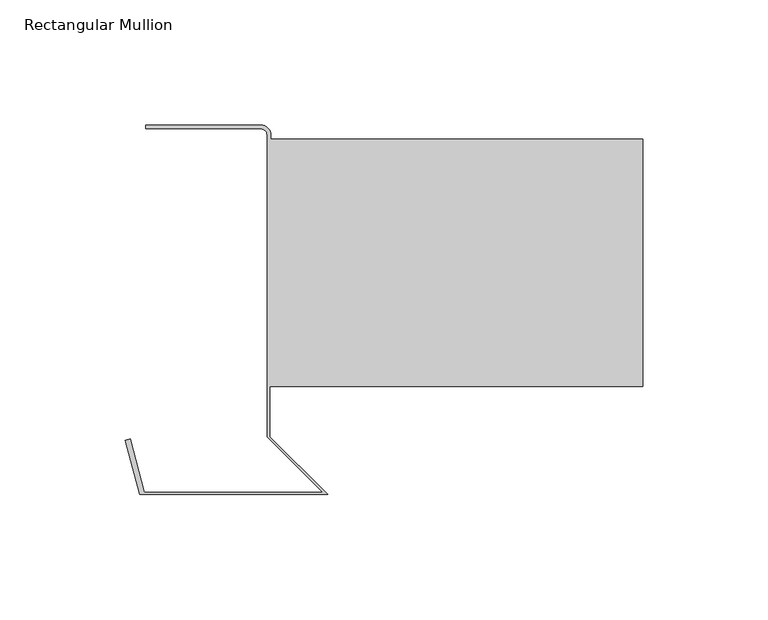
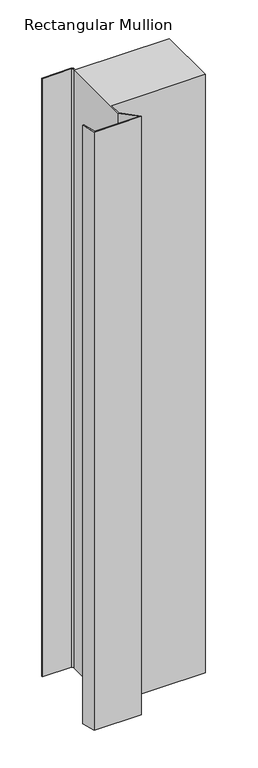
"""IFC4 building model written with IfcOpenShell, lengths in millimetres: member geometry, Rectangular Mullion : TI-V-02_01_Base detail i."""

from ifc_helpers import new_model, si_unit, point, frame, frame_2d, origin, place, context, project, spatial, polyline, circle_curve, trimmed, segment, composite_curve, outline, extrude, source, transform, mapped, element, save


def rectangular_mullion_f78c5b19(model_context):
    return source(origin(), model_context, "Body", "SweptSolid", [
        extrude(outline(composite_curve([segment(polyline([(-148.8686292, 20.0), (-148.8686292, 0.0), (-125.8686292, -23.0), (-200.8686292, -23.0), (-206.6383068, -1.4672699), (-204.7064551, -0.9496318), (-199.0124361, -22.2), (-127.8, -22.2), (-150.0, 0.0), (-150.0, 120.5)]), True, "CONTINUOUS"), segment(trimmed(circle_curve(frame_2d((-152.5, 120.5)), 2.5), [point((-150.0, 120.5))], [point((-152.5, 123.0))], True, "CARTESIAN"), True, "CONTINUOUS"), segment(polyline([(-152.5, 123.0), (-198.5, 123.0), (-198.5, 124.5), (-152.5, 124.5)]), True, "CONTINUOUS"), segment(trimmed(circle_curve(frame_2d((-152.5, 120.5)), 4.0), [point((-152.5, 124.5))], [point((-148.5, 120.5))], False, "CARTESIAN"), True, "CONTINUOUS"), segment(polyline([(-148.5, 120.5), (-148.5, 119.0), (0.0, 119.0), (0.0, 20.0), (-148.8686292, 20.0)]), True, "CONTINUOUS")], self_intersect=False)), frame((0.0, 0.0, -1000.0), z_axis=(0.0, 0.0, 1.0), x_axis=(1.0, 0.0, 0.0)), (0.0, 0.0, 1.0), 1000.0),
    ])


if __name__ == "__main__":
    model = new_model("IFC4")
    model_context = context("Model", 3, world=origin())
    ifc_project = project(units=[si_unit("LENGTHUNIT", "METRE", prefix="MILLI")], contexts=[model_context])
    site = spatial("IfcSite", under=ifc_project)
    building = spatial("IfcBuilding", under=site)
    placement = place(None, origin())
    rectangular_mullion_shape = rectangular_mullion_f78c5b19(model_context)
    element("IfcMember", 1, ObjectType="Rectangular Mullion : TI-V-02_01_Base detail i", at=placement, inside=building, context=model_context, shape_type="MappedRepresentation", body=[
        mapped(rectangular_mullion_shape, transform((0.0, 0.0, 0.0), x_axis=(1.0, 0.0, 0.0), y_axis=(0.0, 1.0, 0.0), z_axis=(0.0, 0.0, 1.0))),
    ])
    save(model, "model.ifc")
